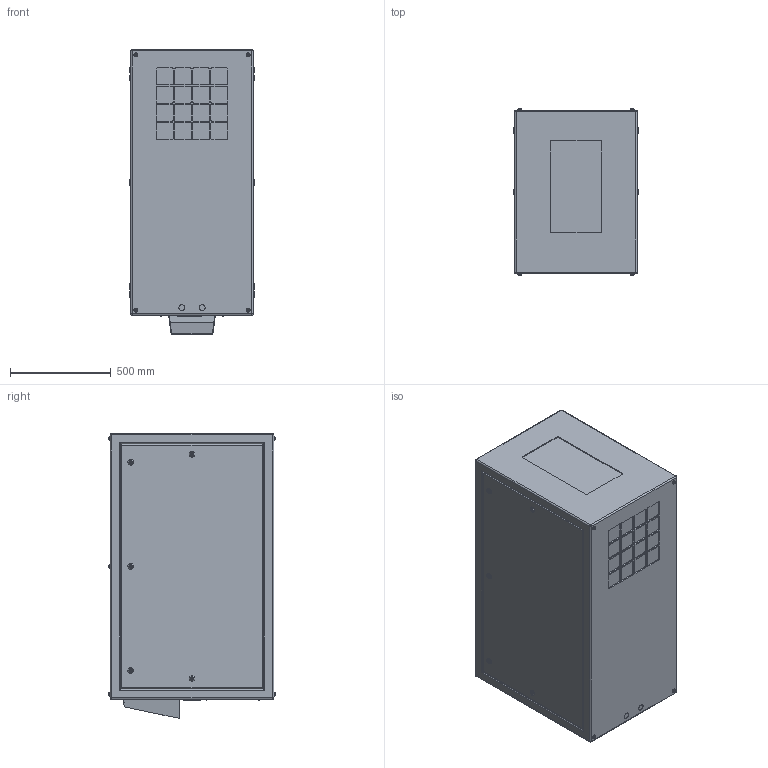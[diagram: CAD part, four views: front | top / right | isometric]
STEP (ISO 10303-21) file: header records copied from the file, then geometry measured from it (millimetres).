
FILE_DESCRIPTION (( 'STEP AP214' ), '1' );
FILE_NAME ('Cyclone 55.305.P R10.STEP', '2022-09-08T19:05:16', ( '' ), ( '' ), 'SwSTEP 2.0', 'SolidWorks 2020', '' );
FILE_SCHEMA (( 'AUTOMOTIVE_DESIGN' ));
Length unit declared in the file: inch
Products named in the file (1): Cyclone 55.305.P R10
Bounding box: 622.3 x 827.4 x 1416.05 mm (x, y, z)
Volume: 653013394.3 mm3; surface area: 5255955.7 mm2
Topology: 1 solids, 7 shells, 576 faces, 1344 edges, 860 vertices
Faces by surface type: plane 272, cylinder 244, torus 52, sphere 8
Entity records: 21519 total; most frequent: CARTESIAN_POINT 3381, DIRECTION 2934, ORIENTED_EDGE 2672, EDGE_CURVE 1336, AXIS2_PLACEMENT_3D 1117, VERTEX_POINT 860, LINE 700, VECTOR 700
